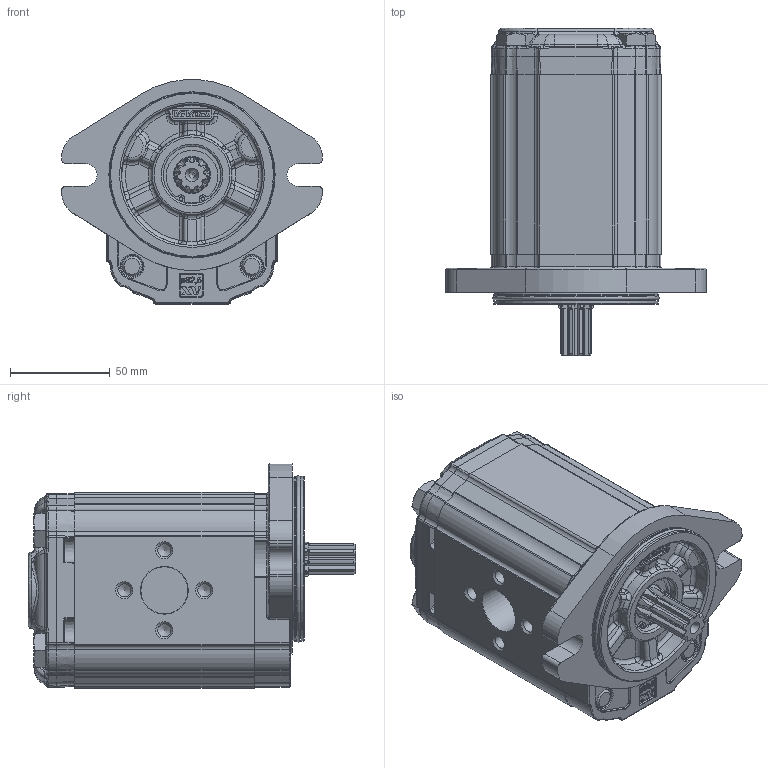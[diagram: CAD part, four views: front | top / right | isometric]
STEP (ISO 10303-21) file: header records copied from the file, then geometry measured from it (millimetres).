
FILE_DESCRIPTION(/* description */ ('Unknown'),/* implementation_level */ '2;1');
FILE_NAME(/* name */ 'X2U5951IQPA',/* time_stamp */ '2021-04-26T09:05:17+02:00',/* author */ ('Unknown'),/* organization */ ('Unknown'),/* preprocessor_version */ 'ST-DEVELOPER v16.7',/* originating_system */ 'Solid Edge',/* authorisation */ 'Unknown');
FILE_SCHEMA (('AUTOMOTIVE_DESIGN {1 0 10303 214 3 1 1}'));
Products named in the file (5): X2U5951IQPA; X2U51; 2I; X2QPH90; XU219-A
Assembly tree (4 placements, depth 2):
  X2U5951IQPA
    X2U51
    2I
    X2QPH90
    XU219-A
Bounding box: 130.38 x 163.7 x 112.3 mm (x, y, z)
Volume: 962080.9 mm3; surface area: 131994.8 mm2
Topology: 4 solids, 5 shells, 2230 faces, 5510 edges, 3347 vertices
Faces by surface type: cylinder 660, plane 592, bspline 537, torus 286, cone 117, sphere 38
Full cylindrical faces by diameter (mm): 2 x2, 6.647 x8, 10 x4, 10.5 x4, 11 x2, 11.5 x4, 16 x4, 17.42 x1, 18 x1, 20 x1, 20.595 x1, 23.332 x1, 23.5 x1, 25.834 x1, 28.5 x1, 28.56 x1, 28.57 x1, 28.8 x1, 30.4 x1, 79.6 x2, 82.5 x2
Entity records: 93010 total; most frequent: CARTESIAN_POINT 30285, ORIENTED_EDGE 10556, DIRECTION 8965, EDGE_CURVE 5278, AXIS2_PLACEMENT_3D 3437, VERTEX_POINT 3273, FACE_BOUND 2461, EDGE_LOOP 2452
